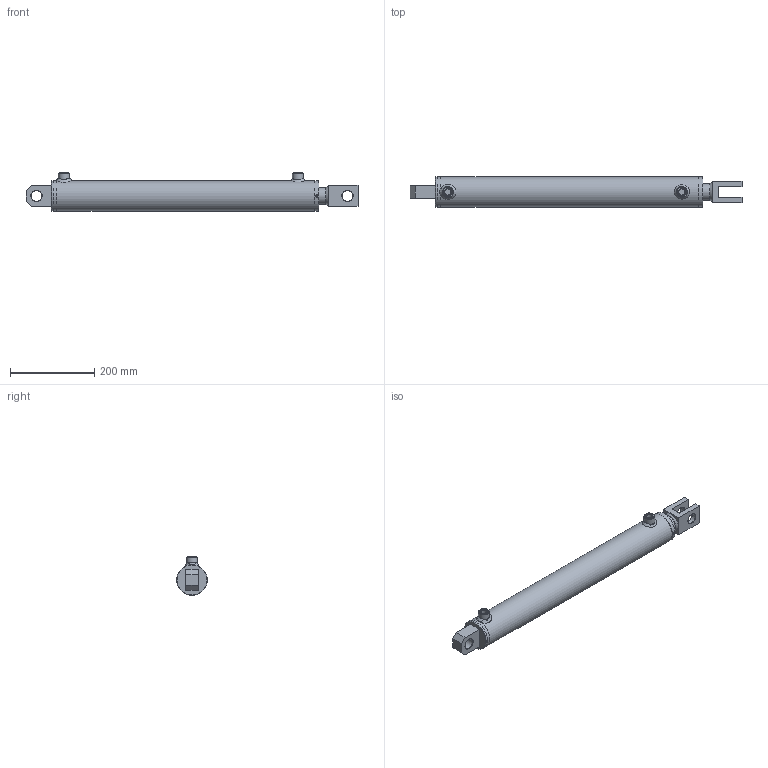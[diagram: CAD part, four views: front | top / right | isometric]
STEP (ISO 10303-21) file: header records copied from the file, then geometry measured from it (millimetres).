
FILE_DESCRIPTION( ( 'Unknown' ), '1' );
FILE_NAME( 'E:/LIBRERIA_3d/CILINDRI/HM5/HM5063400500.stp', 'Unknown', ( 'Unknown' ), ( 'Unknown' ), 'PSStep 17.0.49', 'Unknown', ' ' );
FILE_SCHEMA( ( 'AUTOMOTIVE_DESIGN { 1 0 10303 214 1 1 1 1 }' ) );
Length unit declared in the file: millimetre
Products named in the file (27): STL0630730500-oa6; Saldatura d'angolo 1-oa4; MAT_PRIMA_TUBO_FT07306300-oa5; CBSC220600; CT00063024; CG07306340; HM0063400500; Saldatura con preparazione 1-oa2; Saldatura d'angolo 1-oa3; CBS0600000; CF00063073; CDA0002420; APG0600000; SBL0400630500; Assem1; CSCS004010; COF2500000; CFS0000025; Saldatura con preparazione 1-oa0; Saldatura d'angolo 2-oa1
Assembly tree (21 placements, depth 4):
  Saldatura d'angolo 1-oa4
  Saldatura d'angolo 1-oa4
  Saldatura d'angolo 1-oa3
  Saldatura d'angolo 1-oa3
  Assem1
    CSCS004010
    COF2500000
    CFS0000025
    Saldatura con preparazione 1-oa0
    Saldatura con preparazione 1-oa0
    HM0063400500
      Saldatura con preparazione 1-oa2
      Saldatura con preparazione 1-oa2
      CBS0600000
      CF00063073
      CDA0002420
      APG0600000  x2
      SBL0400630500
      CG07306340
        CG07306340
      CT00063024
        CT00063024
      STL0630730500-oa6
        MAT_PRIMA_TUBO_FT07306300-oa5
        CBSC220600
Bounding box: 790 x 73 x 92 mm (x, y, z)
Volume: 1845044.7 mm3; surface area: 474792.4 mm2
Topology: 23 solids, 23 shells, 257 faces, 542 edges, 340 vertices
Faces by surface type: plane 84, cylinder 68, cone 47, torus 38, bspline 20
Full cylindrical faces by diameter (mm): 4.25 x3, 5 x2, 6 x2, 7 x2, 14.95 x2, 16 x2, 16.6 x2, 22 x2, 23.4 x1, 24 x5, 25.25 x3, 26 x2, 28.5 x1, 36 x1, 40 x8, 42 x1, 43 x1, 47 x1, 48 x1, 48.6 x1, 58 x1, 58.39 x2, 61.63 x2, 62.9 x1, 63 x1, 63.8 x1, 64 x1, 64.1 x1, 65 x4, 66.376 x1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
Entity records: 10890 total; most frequent: CARTESIAN_POINT 4421, DIRECTION 990, ORIENTED_EDGE 638, AXIS2_PLACEMENT_3D 455, EDGE_LOOP 444, FACE_OUTER_BOUND 351, EDGE_CURVE 319, VERTEX_POINT 278
